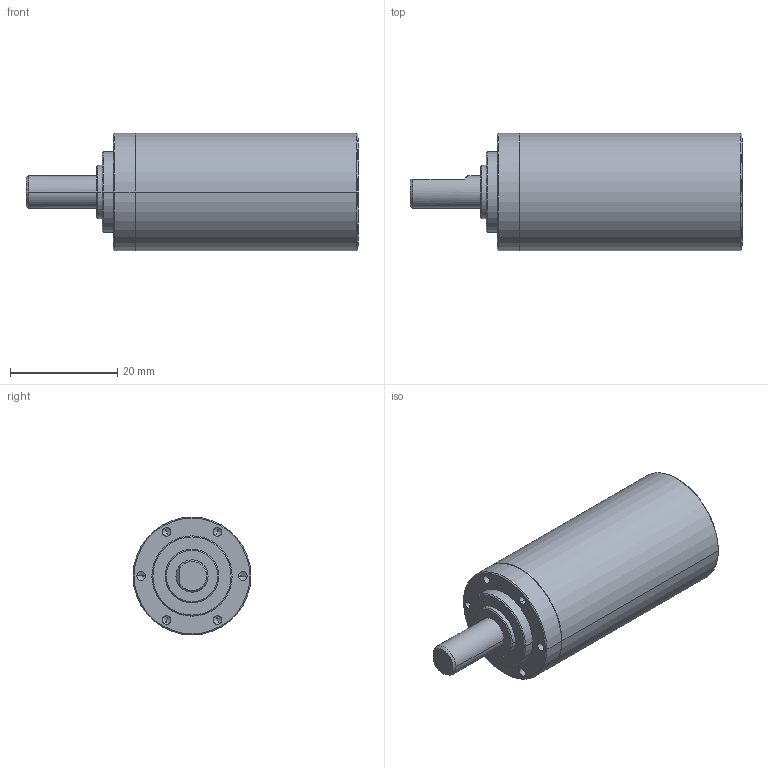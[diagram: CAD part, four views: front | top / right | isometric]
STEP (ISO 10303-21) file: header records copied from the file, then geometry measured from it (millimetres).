
FILE_DESCRIPTION((''),'2;1');
FILE_NAME('1043870','2016-10-04T',('mmagvisi'),(''),'CREO PARAMETRIC BY PTC INC, 2016050','CREO PARAMETRIC BY PTC INC, 2016050','');
FILE_SCHEMA(('CONFIG_CONTROL_DESIGN'));
Length unit declared in the file: millimetre
Products named in the file (1): 1043870
Bounding box: 62 x 22 x 22 mm (x, y, z)
Volume: 17376 mm3; surface area: 4536.8 mm2
Topology: 1 solids, 1 shells, 59 faces, 131 edges, 72 vertices
Faces by surface type: cone 27, cylinder 24, plane 8
Entity records: 1650 total; most frequent: DIRECTION 294, CARTESIAN_POINT 266, ORIENTED_EDGE 238, AXIS2_PLACEMENT_3D 120, EDGE_CURVE 119, VERTEX_POINT 72, EDGE_LOOP 69, CIRCLE 61
